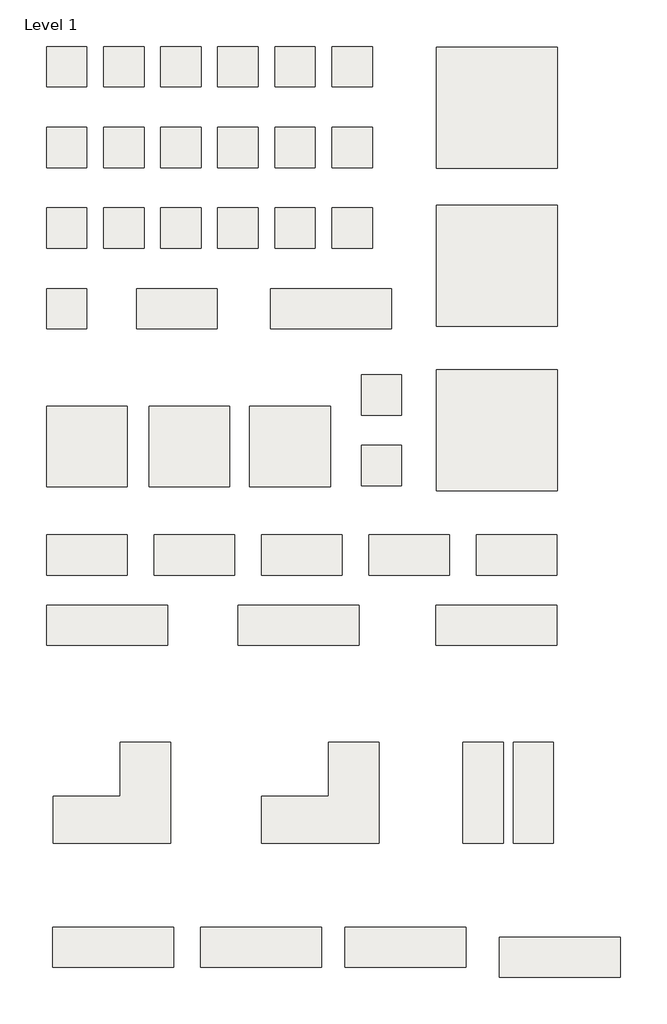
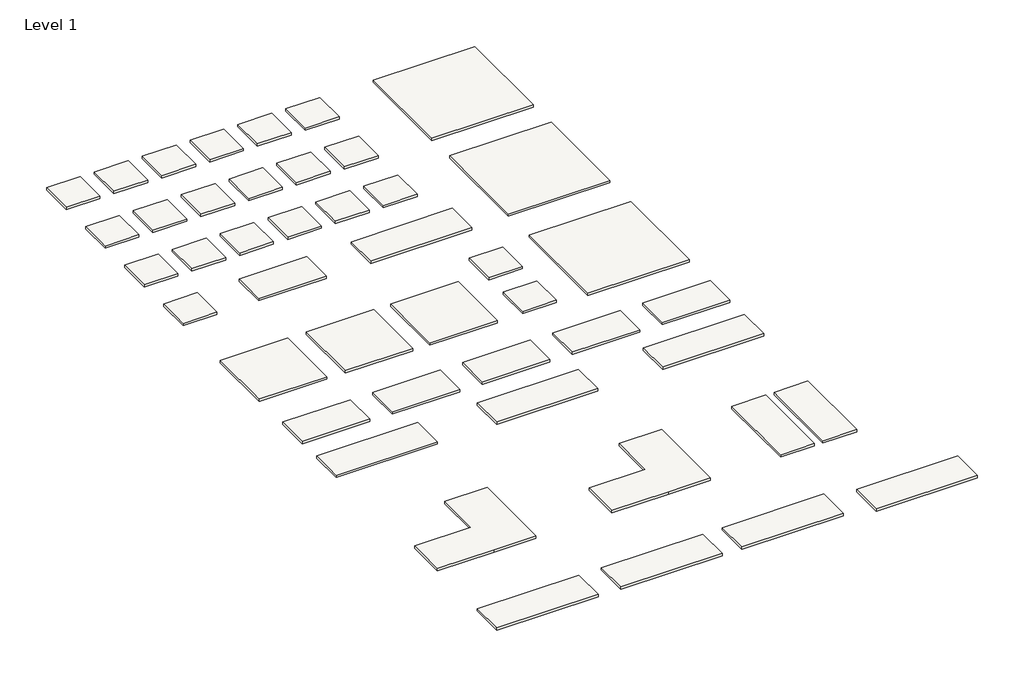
# One storey: 45 slabs.
"""IFC4 building model written with IfcOpenShell, lengths in millimetres."""

import ifcopenshell
import ifcopenshell.guid

model = None  # the IFC model being written
_history = None  # IfcOwnerHistory: only IFC2X3 demands one
_inside = {}  # id of a spatial element -> (the spatial element, [elements in it])
_under = {}  # id of a project, library or spatial element -> (it, [spatial elements below it])
_declared = {}  # id of a project -> (the project, [libraries it declares])
_typed = {}  # id of a type object -> (the type object, [elements of that type])
_made_of = {}  # id of a material, layer set ... -> (it, [elements and type objects made of it])


def new_model(schema):
    """Start an empty IFC model of exactly this schema.

    Asked for "IFC4X3", IfcOpenShell would pick the latest addendum, in which some entities
    have other attributes; the version numbers below select the first issue.
    IFC2X3 requires an IfcOwnerHistory on every rooted entity: one is made here for all.
    """
    global model, _history
    if schema == "IFC4X3":
        model = ifcopenshell.file(schema_version=(4, 3, 0, 0))
    else:
        model = ifcopenshell.file(schema=schema)
    _inside.clear()
    _under.clear()
    _declared.clear()
    _typed.clear()
    _made_of.clear()
    _history = None
    if model.schema == "IFC2X3":
        org = make("IfcOrganization", Name="unknown")
        user = make(
            "IfcPersonAndOrganization",
            ThePerson=make("IfcPerson", FamilyName="unknown"),
            TheOrganization=org,
        )
        app = make(
            "IfcApplication",
            ApplicationDeveloper=org,
            Version="unknown",
            ApplicationFullName="unknown",
            ApplicationIdentifier="unknown",
        )
        _history = make(
            "IfcOwnerHistory",
            OwningUser=user,
            OwningApplication=app,
            ChangeAction="ADDED",
            CreationDate=0,
        )
    return model


def make(cls, **values):
    """One entity of the class cls with the attributes given. An attribute that is None is left unset."""
    return model.create_entity(
        cls, **{name: value for name, value in values.items() if value is not None}
    )


def rooted(cls, **values):
    """An entity with a GlobalId (a new one), such as an element, a storey or a relation."""
    return make(cls, GlobalId=ifcopenshell.guid.new(), OwnerHistory=_history, **values)


def si_unit(unit_type, name, prefix=None):
    """IfcSIUnit, for example si_unit("LENGTHUNIT", "METRE", prefix="MILLI")."""
    return make("IfcSIUnit", UnitType=unit_type, Prefix=prefix, Name=name)


def assignment(units):
    """IfcUnitAssignment: the units of a project."""
    return None if units is None else make("IfcUnitAssignment", Units=units)


def point(xyz):
    """IfcCartesianPoint."""
    return None if xyz is None else make("IfcCartesianPoint", Coordinates=xyz)


def direction(xyz):
    """IfcDirection."""
    return None if xyz is None else make("IfcDirection", DirectionRatios=xyz)


def frame(location, z_axis=None, x_axis=None):
    """IfcAxis2Placement3D, a coordinate frame: its origin and axes. An axis left out is left unset."""
    return make(
        "IfcAxis2Placement3D",
        Location=point(location),
        Axis=direction(z_axis),
        RefDirection=direction(x_axis),
    )


def origin():
    """The frame at (0, 0, 0) with its axes left unset."""
    return frame((0.0, 0.0, 0.0))


def place(relative_to, where):
    """IfcLocalPlacement: puts the frame where relative to a parent placement (None: the world)."""
    return make(
        "IfcLocalPlacement", PlacementRelTo=relative_to, RelativePlacement=where
    )


def context(
    kind, dimensions, precision=None, world=None, true_north=None, identifier=None
):
    """IfcGeometricRepresentationContext, for example the 3D "Model" context."""
    return make(
        "IfcGeometricRepresentationContext",
        ContextIdentifier=identifier,
        ContextType=kind,
        CoordinateSpaceDimension=dimensions,
        Precision=precision,
        WorldCoordinateSystem=world,
        TrueNorth=true_north,
    )


def project(units=None, contexts=None):
    """IfcProject with its units and contexts."""
    return rooted(
        "IfcProject",
        Name="project",
        RepresentationContexts=contexts,
        UnitsInContext=assignment(units),
    )


def spatial(cls, under=None, at=None, **own):
    """A site, building, storey or space (cls), placed at a placement, below another one or the project."""
    s = rooted(cls, ObjectPlacement=at, **own)
    if under is not None:
        _under.setdefault(under.id(), (under, []))[1].append(s)
    return s


def polyline(points):
    """IfcPolyline through the points."""
    return make("IfcPolyline", Points=[point(p) for p in points])


def outline(outer, holes=None, kind="AREA"):
    """IfcArbitraryClosedProfileDef: a profile drawn as a closed curve; with holes, ...WithVoids."""
    if holes is None:
        return make("IfcArbitraryClosedProfileDef", ProfileType=kind, OuterCurve=outer)
    return make(
        "IfcArbitraryProfileDefWithVoids",
        ProfileType=kind,
        OuterCurve=outer,
        InnerCurves=holes,
    )


def extrude(swept, where, along, depth):
    """IfcExtrudedAreaSolid: the profile swept, set in the frame where, extruded along a direction by depth."""
    return make(
        "IfcExtrudedAreaSolid",
        SweptArea=swept,
        Position=where,
        ExtrudedDirection=direction(along),
        Depth=depth,
    )


def faces_of(points, faces, orient=None, outer=None):
    """IfcFace entities. A face is a list of loops; a loop is a list of indices into points, from 0.

    orient and outer hold one flag for each loop. By default every Orientation is true, the
    first loop of a face is its IfcFaceOuterBound and the others are IfcFaceBound.
    """
    made = []
    for i, loops in enumerate(faces):
        bounds = []
        for j, loop in enumerate(loops):
            is_outer = j == 0 if outer is None else outer[i][j]
            bounds.append(
                make(
                    "IfcFaceOuterBound" if is_outer else "IfcFaceBound",
                    Bound=make("IfcPolyLoop", Polygon=[points[k] for k in loop]),
                    Orientation=True if orient is None else orient[i][j],
                )
            )
        made.append(make("IfcFace", Bounds=bounds))
    return made


def faceted_brep(points, faces, orient=None, outer=None, voids=None):
    """IfcFacetedBrep: a solid bounded by flat faces; with voids (closed shells), ...WithVoids."""
    shared = [point(p) for p in points]
    hull = make("IfcClosedShell", CfsFaces=faces_of(shared, faces, orient, outer))
    if voids is None:
        return make("IfcFacetedBrep", Outer=hull)
    return make(
        "IfcFacetedBrepWithVoids",
        Outer=hull,
        Voids=[
            make(cls, CfsFaces=faces_of(shared, fs, o, b)) for cls, fs, o, b in voids
        ],
    )


def shape(context_of_items, identifier, shape_type, items):
    """IfcShapeRepresentation: the items that make up one representation, for example the "Body"."""
    return make(
        "IfcShapeRepresentation",
        ContextOfItems=context_of_items,
        RepresentationIdentifier=identifier,
        RepresentationType=shape_type,
        Items=items,
    )


def made_of(thing, what):
    """Note that an element or type object is made of a material, layer set ...; save() writes the relation."""
    if what is not None:
        _made_of.setdefault(what.id(), (what, []))[1].append(thing)
    return thing


def element(
    cls,
    number,
    at=None,
    inside=None,
    cuts=None,
    type_object=None,
    material=None,
    context=None,
    identifier="Body",
    shape_type=None,
    held_by="IfcProductDefinitionShape",
    body=None,
    shapes=None,
    **own,
):
    """One element of the class cls, such as IfcWall. Its Tag is "e" and its number.

    at: its placement. inside: the storey or other place that contains it. cuts: it is an
    opening in that element (IfcRelVoidsElement). A single representation is given by context,
    identifier, shape_type and body (its items); several are given by shapes. held_by: the class
    of the entity that holds the representations. save() writes the other relations.
    """
    e = rooted(cls, Tag="e%d" % number, ObjectPlacement=at, **own)
    if body is not None:
        shapes = [shape(context, identifier, shape_type, body)]
    if shapes is not None:
        e.Representation = make(held_by, Representations=shapes)
    if inside is not None:
        _inside.setdefault(inside.id(), (inside, []))[1].append(e)
    if cuts is not None:
        rooted(
            "IfcRelVoidsElement", RelatingBuildingElement=cuts, RelatedOpeningElement=e
        )
    if type_object is not None:
        _typed.setdefault(type_object.id(), (type_object, []))[1].append(e)
    return made_of(e, material)


def aggregate(whole, parts):
    """IfcRelAggregates: a whole, such as a stair, and the parts it consists of."""
    return rooted("IfcRelAggregates", RelatingObject=whole, RelatedObjects=parts)


def save(model, path):
    """Write the relations noted so far, then the file.

    IfcRelAggregates (storeys below a building ...), IfcRelContainedInSpatialStructure (elements
    in a storey), IfcRelDefinesByType, IfcRelAssociatesMaterial and IfcRelDeclares: one each for
    every whole, place, type object, material and project.
    """
    for whole, parts in _under.values():
        aggregate(whole, parts)
    for where, things in _inside.values():
        rooted(
            "IfcRelContainedInSpatialStructure",
            RelatedElements=things,
            RelatingStructure=where,
        )
    for kind, things in _typed.values():
        rooted("IfcRelDefinesByType", RelatedObjects=things, RelatingType=kind)
    for what, things in _made_of.values():
        rooted("IfcRelAssociatesMaterial", RelatedObjects=things, RelatingMaterial=what)
    for by, libraries in _declared.values():
        rooted("IfcRelDeclares", RelatingContext=by, RelatedDefinitions=libraries)
    model.write(path)


model = new_model("IFC4")

# Units and contexts
model_context = context("Model", 3, world=origin())
ifc_project = project(units=[si_unit("LENGTHUNIT", "METRE", prefix="MILLI")], contexts=[model_context])

# Site, building, storey
site = spatial("IfcSite", under=ifc_project)
building = spatial("IfcBuilding", under=site)
storey = spatial("IfcBuildingStorey", under=building, Name="Level 1", Elevation=0.0)

# Slabs
placement = place(None, origin())
element("IfcSlab", 1, ObjectType="Brazilian Ipe 1x1 FT Straight Pattern", at=placement, inside=storey, context=model_context, shape_type="SweptSolid", body=[
    extrude(outline(polyline([(-12408.1007008, 14573.1332665), (-12408.1007008, 14268.3332665), (-12712.9007008, 14268.3332665), (-12712.9007008, 14573.1332665), (-12408.1007008, 14573.1332665)])), frame((0.0, 0.0, -22.8203125), z_axis=(0.0, 0.0, 1.0), x_axis=(1.0, 0.0, 0.0)), (0.0, 0.0, 1.0), 22.8203125),
])
element("IfcSlab", 2, ObjectType="Brazilian Ipe 1x3 FT Straight Pattern", at=placement, inside=storey, context=model_context, shape_type="SweptSolid", body=[
    extrude(outline(polyline([(-10104.9898746, 14573.1332665), (-10104.9898746, 14268.3332665), (-11019.3898746, 14268.3332665), (-11019.3898746, 14573.1332665), (-10104.9898746, 14573.1332665)])), frame((0.0, 0.0, -22.8203125), z_axis=(0.0, 0.0, 1.0), x_axis=(1.0, 0.0, 0.0)), (0.0, 0.0, 1.0), 22.8203125),
])
element("IfcSlab", 3, ObjectType="Brazilian Ipe 1x2 FT Straight Pattern", at=placement, inside=storey, context=model_context, shape_type="SweptSolid", body=[
    extrude(outline(polyline([(-11421.7827284, 14573.1332665), (-11421.7827284, 14268.3332665), (-12031.3827284, 14268.3332665), (-12031.3827284, 14573.1332665), (-11421.7827284, 14573.1332665)])), frame((0.0, 0.0, -22.8203125), z_axis=(0.0, 0.0, 1.0), x_axis=(1.0, 0.0, 0.0)), (0.0, 0.0, 1.0), 22.8203125),
])
element("IfcSlab", 4, ObjectType="Brazilian Ipe 1x1 FT Straight Pattern", at=placement, inside=storey, context=model_context, shape_type="SweptSolid", body=[
    extrude(outline(polyline([(-12103.3007008, 13684.1332665), (-12103.3007008, 13074.5332665), (-12712.9007008, 13074.5332665), (-12712.9007008, 13684.1332665), (-12103.3007008, 13684.1332665)])), frame((0.0, 0.0, -22.8203125), z_axis=(0.0, 0.0, 1.0), x_axis=(1.0, 0.0, 0.0)), (0.0, 0.0, 1.0), 22.8203125),
])
element("IfcSlab", 5, ObjectType="Brazilian Ipe 1x1 FT 90 Degree Pattern", at=placement, inside=storey, context=model_context, shape_type="SweptSolid", body=[
    extrude(outline(polyline([(-11328.6007008, 13684.1332665), (-11328.6007008, 13074.5332665), (-11938.2007008, 13074.5332665), (-11938.2007008, 13684.1332665), (-11328.6007008, 13684.1332665)])), frame((0.0, 0.0, -22.8203125), z_axis=(0.0, 0.0, 1.0), x_axis=(1.0, 0.0, 0.0)), (0.0, 0.0, 1.0), 22.8203125),
])
element("IfcSlab", 6, ObjectType="Argentinian Silver Gray 1x1 FT Straight Pattern", at=placement, inside=storey, context=model_context, shape_type="SweptSolid", body=[
    extrude(outline(polyline([(-11976.3007008, 15182.7332665), (-11976.3007008, 14877.9332665), (-12281.1007008, 14877.9332665), (-12281.1007008, 15182.7332665), (-11976.3007008, 15182.7332665)])), frame((0.0, 0.0, -22.8203125), z_axis=(0.0, 0.0, 1.0), x_axis=(1.0, 0.0, 0.0)), (0.0, 0.0, 1.0), 22.8203125),
])
element("IfcSlab", 7, ObjectType="California Redwood 1x1 FT Straight Pattern", at=placement, inside=storey, context=model_context, shape_type="SweptSolid", body=[
    extrude(outline(polyline([(-11544.5007008, 15182.7332665), (-11544.5007008, 14877.9332665), (-11849.3007008, 14877.9332665), (-11849.3007008, 15182.7332665), (-11544.5007008, 15182.7332665)])), frame((0.0, 0.0, -22.8203125), z_axis=(0.0, 0.0, 1.0), x_axis=(1.0, 0.0, 0.0)), (0.0, 0.0, 1.0), 22.8203125),
])
element("IfcSlab", 8, ObjectType="Canadian Maple 1x1 FT Straight Pattern", at=placement, inside=storey, context=model_context, shape_type="SweptSolid", body=[
    extrude(outline(polyline([(-11112.7007008, 15182.7332665), (-11112.7007008, 14877.9332665), (-11417.5007008, 14877.9332665), (-11417.5007008, 15182.7332665), (-11112.7007008, 15182.7332665)])), frame((0.0, 0.0, -22.8203125), z_axis=(0.0, 0.0, 1.0), x_axis=(1.0, 0.0, 0.0)), (0.0, 0.0, 1.0), 22.8203125),
])
element("IfcSlab", 9, ObjectType="Caribbean Blue 1x1 FT Straight Pattern", at=placement, inside=storey, context=model_context, shape_type="SweptSolid", body=[
    extrude(outline(polyline([(-10680.9007008, 15182.7332665), (-10680.9007008, 14877.9332665), (-10985.7007008, 14877.9332665), (-10985.7007008, 15182.7332665), (-10680.9007008, 15182.7332665)])), frame((0.0, 0.0, -22.8203125), z_axis=(0.0, 0.0, 1.0), x_axis=(1.0, 0.0, 0.0)), (0.0, 0.0, 1.0), 22.8203125),
])
element("IfcSlab", 10, ObjectType="Egyptian Stone Gray 1x1 FT Straight Pattern", at=placement, inside=storey, context=model_context, shape_type="SweptSolid", body=[
    extrude(outline(polyline([(-10249.1007008, 15182.7332665), (-10249.1007008, 14877.9332665), (-10553.9007008, 14877.9332665), (-10553.9007008, 15182.7332665), (-10249.1007008, 15182.7332665)])), frame((0.0, 0.0, -22.8203125), z_axis=(0.0, 0.0, 1.0), x_axis=(1.0, 0.0, 0.0)), (0.0, 0.0, 1.0), 22.8203125),
])
element("IfcSlab", 11, ObjectType="Hawaiian Charcoal 1x1 FT Straight Pattern", at=placement, inside=storey, context=model_context, shape_type="SweptSolid", body=[
    extrude(outline(polyline([(-11976.3007008, 15792.3332665), (-11976.3007008, 15487.5332665), (-12281.1007008, 15487.5332665), (-12281.1007008, 15792.3332665), (-11976.3007008, 15792.3332665)])), frame((0.0, 0.0, -22.8203125), z_axis=(0.0, 0.0, 1.0), x_axis=(1.0, 0.0, 0.0)), (0.0, 0.0, 1.0), 22.8203125),
])
element("IfcSlab", 12, ObjectType="Honduran Mahogany 1x1 FT Straight Pattern", at=placement, inside=storey, context=model_context, shape_type="SweptSolid", body=[
    extrude(outline(polyline([(-11544.5007008, 15792.3332665), (-11544.5007008, 15487.5332665), (-11849.3007008, 15487.5332665), (-11849.3007008, 15792.3332665), (-11544.5007008, 15792.3332665)])), frame((0.0, 0.0, -22.8203125), z_axis=(0.0, 0.0, 1.0), x_axis=(1.0, 0.0, 0.0)), (0.0, 0.0, 1.0), 22.8203125),
])
element("IfcSlab", 13, ObjectType="Icelandic Smoke White 1x1 FT Straight Pattern", at=placement, inside=storey, context=model_context, shape_type="SweptSolid", body=[
    extrude(outline(polyline([(-11112.7007008, 15792.3332665), (-11112.7007008, 15487.5332665), (-11417.5007008, 15487.5332665), (-11417.5007008, 15792.3332665), (-11112.7007008, 15792.3332665)])), frame((0.0, 0.0, -22.8203125), z_axis=(0.0, 0.0, 1.0), x_axis=(1.0, 0.0, 0.0)), (0.0, 0.0, 1.0), 22.8203125),
])
element("IfcSlab", 14, ObjectType="Indonesian Merbau 1x1 FT Straight Pattern", at=placement, inside=storey, context=model_context, shape_type="SweptSolid", body=[
    extrude(outline(polyline([(-10680.9007008, 15792.3332665), (-10680.9007008, 15487.5332665), (-10985.7007008, 15487.5332665), (-10985.7007008, 15792.3332665), (-10680.9007008, 15792.3332665)])), frame((0.0, 0.0, -22.8203125), z_axis=(0.0, 0.0, 1.0), x_axis=(1.0, 0.0, 0.0)), (0.0, 0.0, 1.0), 22.8203125),
])
element("IfcSlab", 15, ObjectType="Irish Green 1x1 FT Straight Pattern", at=placement, inside=storey, context=model_context, shape_type="SweptSolid", body=[
    extrude(outline(polyline([(-10249.1007008, 15792.3332665), (-10249.1007008, 15487.5332665), (-10553.9007008, 15487.5332665), (-10553.9007008, 15792.3332665), (-10249.1007008, 15792.3332665)])), frame((0.0, 0.0, -22.8203125), z_axis=(0.0, 0.0, 1.0), x_axis=(1.0, 0.0, 0.0)), (0.0, 0.0, 1.0), 22.8203125),
])
element("IfcSlab", 16, ObjectType="Peruvian Teak 1x1 FT Straight Pattern", at=placement, inside=storey, context=model_context, shape_type="SweptSolid", body=[
    extrude(outline(polyline([(-11976.3007008, 16401.9332665), (-11976.3007008, 16097.1332665), (-12281.1007008, 16097.1332665), (-12281.1007008, 16401.9332665), (-11976.3007008, 16401.9332665)])), frame((0.0, 0.0, -22.8203125), z_axis=(0.0, 0.0, 1.0), x_axis=(1.0, 0.0, 0.0)), (0.0, 0.0, 1.0), 22.8203125),
])
element("IfcSlab", 17, ObjectType="Swedish Red 1x1 FT Straight Pattern", at=placement, inside=storey, context=model_context, shape_type="SweptSolid", body=[
    extrude(outline(polyline([(-10680.9007008, 16401.9332665), (-10680.9007008, 16097.1332665), (-10985.7007008, 16097.1332665), (-10985.7007008, 16401.9332665), (-10680.9007008, 16401.9332665)])), frame((0.0, 0.0, -22.8203125), z_axis=(0.0, 0.0, 1.0), x_axis=(1.0, 0.0, 0.0)), (0.0, 0.0, 1.0), 22.8203125),
])
element("IfcSlab", 18, ObjectType="Westminister Gray 1x1 FT Straight Pattern", at=placement, inside=storey, context=model_context, shape_type="SweptSolid", body=[
    extrude(outline(polyline([(-10249.1007008, 16401.9332665), (-10249.1007008, 16097.1332665), (-10553.9007008, 16097.1332665), (-10553.9007008, 16401.9332665), (-10249.1007008, 16401.9332665)])), frame((0.0, 0.0, -22.8203125), z_axis=(0.0, 0.0, 1.0), x_axis=(1.0, 0.0, 0.0)), (0.0, 0.0, 1.0), 22.8203125),
])
element("IfcSlab", 19, ObjectType="Rainbow Mix 1x1 FT Straight Pattern", at=placement, inside=storey, context=model_context, shape_type="SweptSolid", body=[
    extrude(outline(polyline([(-8850.696526, 16397.0029958), (-8850.696526, 15482.6029958), (-9765.096526, 15482.6029958), (-9765.096526, 16397.0029958), (-8850.696526, 16397.0029958)])), frame((0.0, 0.0, -22.8203125), z_axis=(0.0, 0.0, 1.0), x_axis=(1.0, 0.0, 0.0)), (0.0, 0.0, 1.0), 22.8203125),
])
element("IfcSlab", 20, ObjectType="Hawaiian Charcoal 1x2 FT Straight Pattern", at=placement, inside=storey, context=model_context, shape_type="SweptSolid", body=[
    extrude(outline(polyline([(-12103.3007008, 12711.4142462), (-12103.3007008, 12406.6142462), (-12712.9007008, 12406.6142462), (-12712.9007008, 12711.4142462), (-12103.3007008, 12711.4142462)])), frame((0.0, 0.0, -22.8203125), z_axis=(0.0, 0.0, 1.0), x_axis=(1.0, 0.0, 0.0)), (0.0, 0.0, 1.0), 22.8203125),
])
element("IfcSlab", 21, ObjectType="Peruvian Teak 1x2 FT Straight Pattern", at=placement, inside=storey, context=model_context, shape_type="SweptSolid", body=[
    extrude(outline(polyline([(-11290.5007008, 12711.4142462), (-11290.5007008, 12406.6142462), (-11900.1007008, 12406.6142462), (-11900.1007008, 12711.4142462), (-11290.5007008, 12711.4142462)])), frame((0.0, 0.0, -22.8203125), z_axis=(0.0, 0.0, 1.0), x_axis=(1.0, 0.0, 0.0)), (0.0, 0.0, 1.0), 22.8203125),
])
element("IfcSlab", 22, ObjectType="Westminister Gray 1x2 FT Straight Pattern", at=placement, inside=storey, context=model_context, shape_type="SweptSolid", body=[
    extrude(outline(polyline([(-8852.1007008, 12711.4142462), (-8852.1007008, 12406.6142462), (-9461.7007008, 12406.6142462), (-9461.7007008, 12711.4142462), (-8852.1007008, 12711.4142462)])), frame((0.0, 0.0, -22.8203125), z_axis=(0.0, 0.0, 1.0), x_axis=(1.0, 0.0, 0.0)), (0.0, 0.0, 1.0), 22.8203125),
])
element("IfcSlab", 23, ObjectType="Peruvian Teak 1x3 FT Straight Pattern", at=placement, inside=storey, context=model_context, shape_type="SweptSolid", body=[
    extrude(outline(polyline([(-11798.5007008, 12180.3901451), (-11798.5007008, 11875.5901451), (-12712.9007008, 11875.5901451), (-12712.9007008, 12180.3901451), (-11798.5007008, 12180.3901451)])), frame((0.0, 0.0, -22.8203125), z_axis=(0.0, 0.0, 1.0), x_axis=(1.0, 0.0, 0.0)), (0.0, 0.0, 1.0), 22.8203125),
])
element("IfcSlab", 24, ObjectType="Westminister Gray 1x3 FT Straight Pattern", at=placement, inside=storey, context=model_context, shape_type="SweptSolid", body=[
    extrude(outline(polyline([(-8852.1007008, 12180.3901451), (-8852.1007008, 11875.5901451), (-9766.5007008, 11875.5901451), (-9766.5007008, 12180.3901451), (-8852.1007008, 12180.3901451)])), frame((0.0, 0.0, -22.8203125), z_axis=(0.0, 0.0, 1.0), x_axis=(1.0, 0.0, 0.0)), (0.0, 0.0, 1.0), 22.8203125),
])
element("IfcSlab", 25, ObjectType="Westminister Gray 1x3 FT Straight Pattern", at=placement, inside=storey, context=model_context, shape_type="Brep", body=[
    faceted_brep([(-12154.6837996, 10736.6074079, -22.8203125), (-12154.6837996, 11143.0074079, -22.8203125), (-11773.6837996, 11143.0074079, -22.8203125), (-11773.6837996, 10381.0074079, -22.8203125), (-12154.6837996, 10381.0074079, -22.8203125), (-12662.6837996, 10381.0074079, -22.8203125), (-12662.6837996, 10736.6074079, -22.8203125), (-12154.6837996, 10736.6074079, 0.0), (-12662.6837996, 10736.6074079, 0.0), (-12662.6837996, 10381.0074079, 0.0), (-12154.6837996, 10381.0074079, 0.0), (-11773.6837996, 10381.0074079, 0.0), (-11773.6837996, 11143.0074079, 0.0), (-12154.6837996, 11143.0074079, 0.0), (-12662.6837996, 10381.0074079, -0.9921875), (-12662.6837996, 10381.0074079, -11.7078125), (-11773.6837996, 11143.0074079, -0.9921875), (-11773.6837996, 11143.0074079, -11.7078125), (-11773.6837996, 10381.0074079, -0.9921875), (-11773.6837996, 10381.0074079, -11.7078125)], [[[0, 1, 2, 3, 4, 5, 6]], [[7, 8, 9, 10, 11, 12, 13]], [[5, 4, 10, 9, 14, 15]], [[6, 5, 15, 14, 9, 8]], [[0, 6, 8, 7]], [[1, 0, 7, 13]], [[2, 1, 13, 12, 16, 17]], [[3, 2, 17, 16, 12, 11, 18, 19]], [[4, 3, 19, 18, 11, 10]]]),
])
element("IfcSlab", 26, ObjectType="Peruvian Teak 1x2 FT Straight Pattern", at=placement, inside=storey, context=model_context, shape_type="Brep", body=[
    faceted_brep([(-10579.8837996, 10736.6074079, -22.8203125), (-10579.8837996, 11143.0074079, -22.8203125), (-10198.8837996, 11143.0074079, -22.8203125), (-10198.8837996, 10381.0074079, -22.8203125), (-10579.8837996, 10381.0074079, -22.8203125), (-11087.8837996, 10381.0074079, -22.8203125), (-11087.8837996, 10736.6074079, -22.8203125), (-10579.8837996, 10736.6074079, 0.0), (-11087.8837996, 10736.6074079, 0.0), (-11087.8837996, 10381.0074079, 0.0), (-10579.8837996, 10381.0074079, 0.0), (-10198.8837996, 10381.0074079, 0.0), (-10198.8837996, 11143.0074079, 0.0), (-10579.8837996, 11143.0074079, 0.0), (-11087.8837996, 10381.0074079, -11.1125), (-10198.8837996, 11143.0074079, -11.1125), (-10198.8837996, 10381.0074079, -11.1125)], [[[0, 1, 2, 3, 4, 5, 6]], [[7, 8, 9, 10, 11, 12, 13]], [[5, 4, 10, 9, 14]], [[6, 5, 14, 9, 8]], [[0, 6, 8, 7]], [[1, 0, 7, 13]], [[2, 1, 13, 12, 15]], [[3, 2, 15, 12, 11, 16]], [[4, 3, 16, 11, 10]]]),
])
element("IfcSlab", 27, ObjectType="Caribbean Blue 1x1 FT Straight Pattern", at=placement, inside=storey, context=model_context, shape_type="SweptSolid", body=[
    extrude(outline(polyline([(-9182.8837996, 11143.0074079), (-8878.0837996, 11143.0074079), (-8878.0837996, 10381.0074079), (-9182.8837996, 10381.0074079), (-9182.8837996, 11143.0074079)])), frame((0.0, 0.0, -22.8203125), z_axis=(0.0, 0.0, 1.0), x_axis=(1.0, 0.0, 0.0)), (0.0, 0.0, 1.0), 22.8203125),
])
element("IfcSlab", 28, ObjectType="Caribbean Blue 1x1 FT Straight Pattern", at=placement, inside=storey, context=model_context, shape_type="SweptSolid", body=[
    extrude(outline(polyline([(-9563.8837996, 11143.0074079), (-9259.0837996, 11143.0074079), (-9259.0837996, 10381.0074079), (-9563.8837996, 10381.0074079), (-9563.8837996, 11143.0074079)])), frame((0.0, 0.0, -22.8203125), z_axis=(0.0, 0.0, 1.0), x_axis=(1.0, 0.0, 0.0)), (0.0, 0.0, 1.0), 22.8203125),
])
element("IfcSlab", 29, ObjectType="Westminister Gray 1x3 FT Straight Pattern", at=placement, inside=storey, context=model_context, shape_type="Brep", body=[
    faceted_brep([(-11751.2725003, 9747.6961575, -22.8203125), (-11751.2725003, 9442.8961575, -22.8203125), (-12665.6725003, 9442.8961575, -22.8203125), (-12665.6725003, 9747.6961575, -22.8203125), (-11751.2725003, 9747.6961575, 0.0), (-12665.6725003, 9747.6961575, 0.0), (-12665.6725003, 9442.8961575, 0.0), (-11751.2725003, 9442.8961575, 0.0), (-11751.2725003, 9442.8961575, -0.9921875), (-11751.2725003, 9442.8961575, -11.7078125), (-12665.6725003, 9442.8961575, -0.9921875), (-12665.6725003, 9442.8961575, -11.7078125)], [[[0, 1, 2, 3]], [[4, 5, 6, 7]], [[1, 0, 4, 7, 8, 9]], [[2, 1, 9, 8, 7, 6, 10, 11]], [[3, 2, 11, 10, 6, 5]], [[0, 3, 5, 4]]]),
])
element("IfcSlab", 30, ObjectType="Peruvian Teak 1x3 FT Straight Pattern", at=placement, inside=storey, context=model_context, shape_type="Brep", body=[
    faceted_brep([(-9541.4725003, 9747.6961575, -22.8203125), (-9541.4725003, 9442.8961575, -22.8203125), (-10455.8725003, 9442.8961575, -22.8203125), (-10455.8725003, 9747.6961575, -22.8203125), (-9541.4725003, 9747.6961575, 0.0), (-10455.8725003, 9747.6961575, 0.0), (-10455.8725003, 9442.8961575, 0.0), (-9541.4725003, 9442.8961575, 0.0), (-9541.4725003, 9442.8961575, -0.9921875), (-9541.4725003, 9442.8961575, -11.7078125), (-10455.8725003, 9442.8961575, -0.9921875), (-10455.8725003, 9442.8961575, -11.7078125)], [[[0, 1, 2, 3]], [[4, 5, 6, 7]], [[1, 0, 4, 7, 8, 9]], [[2, 1, 9, 8, 7, 6, 10, 11]], [[3, 2, 11, 10, 6, 5]], [[0, 3, 5, 4]]]),
])
element("IfcSlab", 31, ObjectType="Brazilian Ipe 1x3 FT Straight Pattern", at=placement, inside=storey, context=model_context, shape_type="Brep", body=[
    faceted_brep([(-8373.0725003, 9671.4961575, -22.8203125), (-8373.0725003, 9366.6961575, -22.8203125), (-9287.4725003, 9366.6961575, -22.8203125), (-9287.4725003, 9671.4961575, -22.8203125), (-8373.0725003, 9671.4961575, 0.0), (-9287.4725003, 9671.4961575, 0.0), (-9287.4725003, 9366.6961575, 0.0), (-8373.0725003, 9366.6961575, 0.0), (-8373.0725003, 9366.6961575, -0.9921875), (-8373.0725003, 9366.6961575, -11.7078125), (-9287.4725003, 9366.6961575, -0.9921875), (-9287.4725003, 9366.6961575, -11.7078125)], [[[0, 1, 2, 3]], [[4, 5, 6, 7]], [[1, 0, 4, 7, 8, 9]], [[2, 1, 9, 8, 7, 6, 10, 11]], [[3, 2, 11, 10, 6, 5]], [[0, 3, 5, 4]]]),
])
element("IfcSlab", 32, ObjectType="Brown Mix 1x1 FT Straight Pattern", at=placement, inside=storey, context=model_context, shape_type="SweptSolid", body=[
    extrude(outline(polyline([(-8850.696526, 15203.2029958), (-8850.696526, 14288.8029958), (-9765.096526, 14288.8029958), (-9765.096526, 15203.2029958), (-8850.696526, 15203.2029958)])), frame((0.0, 0.0, -22.8203125), z_axis=(0.0, 0.0, 1.0), x_axis=(1.0, 0.0, 0.0)), (0.0, 0.0, 1.0), 22.8203125),
])
element("IfcSlab", 33, ObjectType="English Oak 1x1 FT Straight Pattern", at=placement, inside=storey, context=model_context, shape_type="SweptSolid", body=[
    extrude(outline(polyline([(-12408.1007008, 15792.3332665), (-12408.1007008, 15487.5332665), (-12712.9007008, 15487.5332665), (-12712.9007008, 15792.3332665), (-12408.1007008, 15792.3332665)])), frame((0.0, 0.0, -22.8203125), z_axis=(0.0, 0.0, 1.0), x_axis=(1.0, 0.0, 0.0)), (0.0, 0.0, 1.0), 22.8203125),
])
element("IfcSlab", 34, ObjectType="Grass Tile 1x1 FT", at=placement, inside=storey, context=model_context, shape_type="SweptSolid", body=[
    extrude(outline(polyline([(-10027.6378501, 13920.2901451), (-10027.6378501, 13615.4901451), (-10332.4378501, 13615.4901451), (-10332.4378501, 13920.2901451), (-10027.6378501, 13920.2901451)])), frame((0.0, 0.0, -22.8203125), z_axis=(0.0, 0.0, 1.0), x_axis=(1.0, 0.0, 0.0)), (0.0, 0.0, 1.0), 22.8203125),
])
element("IfcSlab", 35, ObjectType="Grass Tile 2x2 FT", at=placement, inside=storey, context=model_context, shape_type="SweptSolid", body=[
    extrude(outline(polyline([(-10566.6007008, 13684.1332665), (-10566.6007008, 13074.5332665), (-11176.2007008, 13074.5332665), (-11176.2007008, 13684.1332665), (-10566.6007008, 13684.1332665)])), frame((0.0, 0.0, -22.8203125), z_axis=(0.0, 0.0, 1.0), x_axis=(1.0, 0.0, 0.0)), (0.0, 0.0, 1.0), 22.8203125),
])
element("IfcSlab", 36, ObjectType="Gray Mix 1x1 FT Straight Pattern", at=placement, inside=storey, context=model_context, shape_type="SweptSolid", body=[
    extrude(outline(polyline([(-8850.696526, 13958.6029958), (-8850.696526, 13044.2029958), (-9765.096526, 13044.2029958), (-9765.096526, 13958.6029958), (-8850.696526, 13958.6029958)])), frame((0.0, 0.0, -22.8203125), z_axis=(0.0, 0.0, 1.0), x_axis=(1.0, 0.0, 0.0)), (0.0, 0.0, 1.0), 22.8203125),
])
element("IfcSlab", 37, ObjectType="Japanese Cedar 1x1 FT Straight Pattern", at=placement, inside=storey, context=model_context, shape_type="SweptSolid", body=[
    extrude(outline(polyline([(-12408.1007008, 16401.9332665), (-12408.1007008, 16097.1332665), (-12712.9007008, 16097.1332665), (-12712.9007008, 16401.9332665), (-12408.1007008, 16401.9332665)])), frame((0.0, 0.0, -22.8203125), z_axis=(0.0, 0.0, 1.0), x_axis=(1.0, 0.0, 0.0)), (0.0, 0.0, 1.0), 22.8203125),
])
element("IfcSlab", 38, ObjectType="Roman Antique 1x1 FT Straight Pattern", at=placement, inside=storey, context=model_context, shape_type="SweptSolid", body=[
    extrude(outline(polyline([(-11544.5007008, 16401.9332665), (-11544.5007008, 16097.1332665), (-11849.3007008, 16097.1332665), (-11849.3007008, 16401.9332665), (-11544.5007008, 16401.9332665)])), frame((0.0, 0.0, -22.8203125), z_axis=(0.0, 0.0, 1.0), x_axis=(1.0, 0.0, 0.0)), (0.0, 0.0, 1.0), 22.8203125),
])
element("IfcSlab", 39, ObjectType="Roman Antique 1x2 FT Straight Pattern", at=placement, inside=storey, context=model_context, shape_type="SweptSolid", body=[
    extrude(outline(polyline([(-10477.7007008, 12711.4142462), (-10477.7007008, 12406.6142462), (-11087.3007008, 12406.6142462), (-11087.3007008, 12711.4142462), (-10477.7007008, 12711.4142462)])), frame((0.0, 0.0, -22.8203125), z_axis=(0.0, 0.0, 1.0), x_axis=(1.0, 0.0, 0.0)), (0.0, 0.0, 1.0), 22.8203125),
])
element("IfcSlab", 40, ObjectType="Roman Antique 1x3 FT Straight Pattern", at=placement, inside=storey, context=model_context, shape_type="SweptSolid", body=[
    extrude(outline(polyline([(-10350.7007008, 12180.3901451), (-10350.7007008, 11875.5901451), (-11265.1007008, 11875.5901451), (-11265.1007008, 12180.3901451), (-10350.7007008, 12180.3901451)])), frame((0.0, 0.0, -22.8203125), z_axis=(0.0, 0.0, 1.0), x_axis=(1.0, 0.0, 0.0)), (0.0, 0.0, 1.0), 22.8203125),
])
element("IfcSlab", 41, ObjectType="Roman Antique 1x3 FT Straight Pattern", at=placement, inside=storey, context=model_context, shape_type="Brep", body=[
    faceted_brep([(-10633.6725003, 9747.6961575, -22.8203125), (-10633.6725003, 9442.8961575, -22.8203125), (-11548.0725003, 9442.8961575, -22.8203125), (-11548.0725003, 9747.6961575, -22.8203125), (-10633.6725003, 9747.6961575, 0.0), (-11548.0725003, 9747.6961575, 0.0), (-11548.0725003, 9442.8961575, 0.0), (-10633.6725003, 9442.8961575, 0.0), (-10633.6725003, 9442.8961575, -0.9921875), (-10633.6725003, 9442.8961575, -11.7078125), (-11548.0725003, 9442.8961575, -0.9921875), (-11548.0725003, 9442.8961575, -11.7078125)], [[[0, 1, 2, 3]], [[4, 5, 6, 7]], [[1, 0, 4, 7, 8, 9]], [[2, 1, 9, 8, 7, 6, 10, 11]], [[3, 2, 11, 10, 6, 5]], [[0, 3, 5, 4]]]),
])
element("IfcSlab", 42, ObjectType="Sahara Sand 1x1 FT Straight Pattern", at=placement, inside=storey, context=model_context, shape_type="SweptSolid", body=[
    extrude(outline(polyline([(-12408.1007008, 15182.7332665), (-12408.1007008, 14877.9332665), (-12712.9007008, 14877.9332665), (-12712.9007008, 15182.7332665), (-12408.1007008, 15182.7332665)])), frame((0.0, 0.0, -22.8203125), z_axis=(0.0, 0.0, 1.0), x_axis=(1.0, 0.0, 0.0)), (0.0, 0.0, 1.0), 22.8203125),
])
element("IfcSlab", 43, ObjectType="Spanish Walnut 1x1 FT Straight Pattern", at=placement, inside=storey, context=model_context, shape_type="SweptSolid", body=[
    extrude(outline(polyline([(-11112.7007008, 16401.9332665), (-11112.7007008, 16097.1332665), (-11417.5007008, 16097.1332665), (-11417.5007008, 16401.9332665), (-11112.7007008, 16401.9332665)])), frame((0.0, 0.0, -22.8203125), z_axis=(0.0, 0.0, 1.0), x_axis=(1.0, 0.0, 0.0)), (0.0, 0.0, 1.0), 22.8203125),
])
element("IfcSlab", 44, ObjectType="Spanish Walnut 1x2 FT Straight Pattern", at=placement, inside=storey, context=model_context, shape_type="SweptSolid", body=[
    extrude(outline(polyline([(-9664.9007008, 12711.4142462), (-9664.9007008, 12406.6142462), (-10274.5007008, 12406.6142462), (-10274.5007008, 12711.4142462), (-9664.9007008, 12711.4142462)])), frame((0.0, 0.0, -22.8203125), z_axis=(0.0, 0.0, 1.0), x_axis=(1.0, 0.0, 0.0)), (0.0, 0.0, 1.0), 22.8203125),
])
element("IfcSlab", 45, ObjectType="Stone Tile 1x1 FT", at=placement, inside=storey, context=model_context, shape_type="SweptSolid", body=[
    extrude(outline(polyline([(-10027.6378501, 13386.8901451), (-10027.6378501, 13082.0901451), (-10332.4378501, 13082.0901451), (-10332.4378501, 13386.8901451), (-10027.6378501, 13386.8901451)])), frame((0.0, 0.0, -22.8203125), z_axis=(0.0, 0.0, 1.0), x_axis=(1.0, 0.0, 0.0)), (0.0, 0.0, 1.0), 22.8203125),
])

save(model, "model.ifc")
